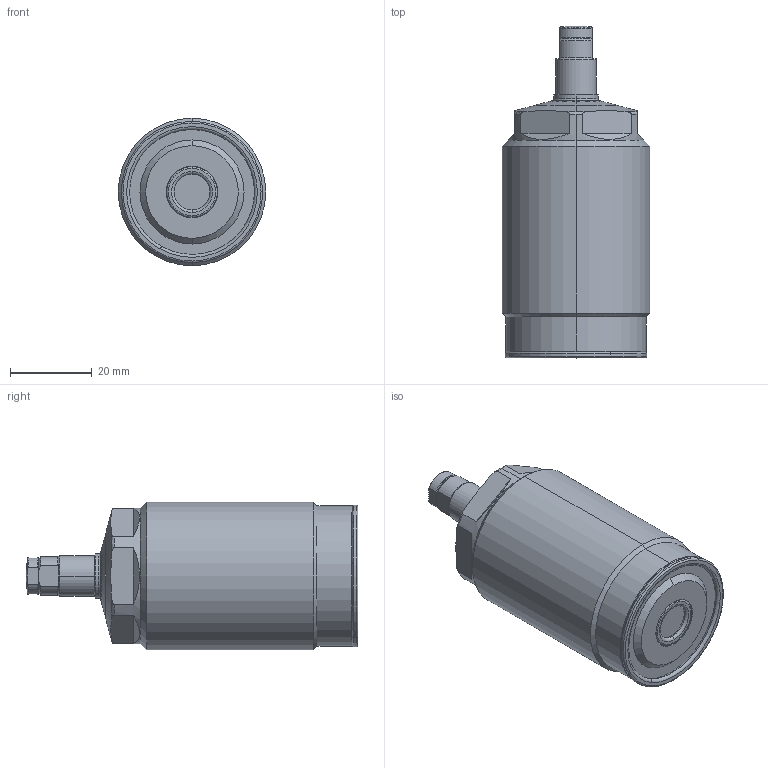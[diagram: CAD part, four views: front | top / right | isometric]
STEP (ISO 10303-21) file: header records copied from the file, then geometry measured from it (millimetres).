
FILE_DESCRIPTION(/* description */ (''),/* implementation_level */ '2;1');
FILE_NAME(/* name */ 'TNE36.stp',/* time_stamp */ '2022-11-17T13:45:57+08:00',/* author */ (''),/* organization */ (''),/* preprocessor_version */ 'ST-DEVELOPER v16.7',/* originating_system */ 'SIEMENS PLM Software NX 12.0',/* authorisation */ '');
FILE_SCHEMA (('AP203_CONFIGURATION_CONTROLLED_3D_DESIGN_OF_MECHANICAL_PARTS_AND_ASSEMBLIES_MIM_LF { 1 0 10303 403 2 1 2}'));
Length unit declared in the file: millimetre
Products named in the file (6): TNE36-03; TNE36-05; TNE36-01; TNE36-02; TNE36-04; WNC1603-x-E_step
Assembly tree (5 placements, depth 2):
  WNC1603-x-E_step
    TNE36-04
    TNE36-02
    TNE36-01
    TNE36-05
    TNE36-03
Bounding box: 36 x 81 x 36 mm (x, y, z)
Volume: 59500.2 mm3; surface area: 10571 mm2
Topology: 5 solids, 5 shells, 151 faces, 333 edges, 201 vertices
Faces by surface type: torus 47, cylinder 40, plane 36, cone 26, sphere 2
Entity records: 5181 total; most frequent: CARTESIAN_POINT 1081, DIRECTION 808, ORIENTED_EDGE 666, AXIS2_PLACEMENT_3D 358, EDGE_CURVE 333, VERTEX_POINT 201, CIRCLE 201, EDGE_LOOP 166
